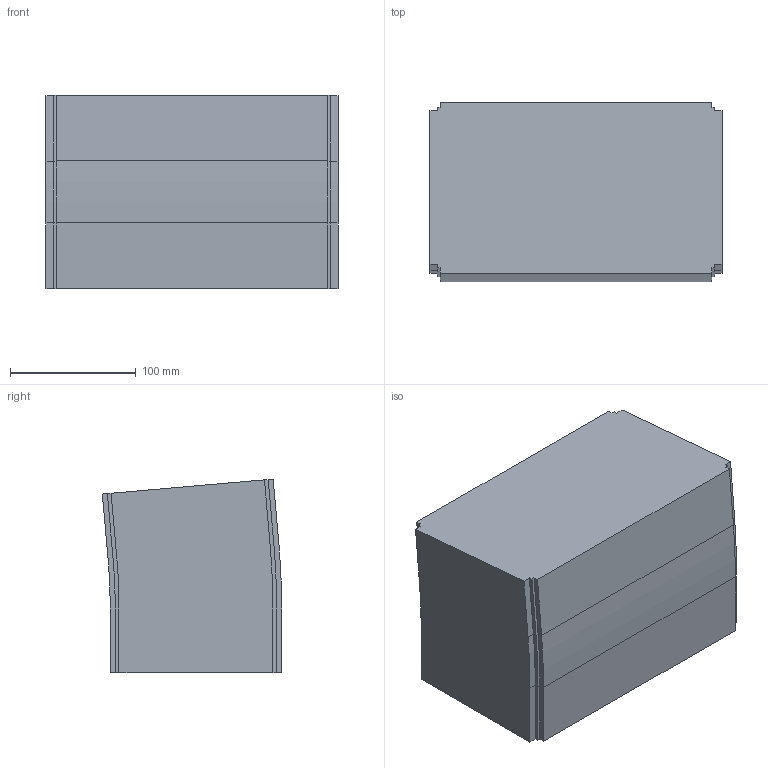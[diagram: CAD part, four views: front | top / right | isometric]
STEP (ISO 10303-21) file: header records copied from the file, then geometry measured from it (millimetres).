
FILE_DESCRIPTION (( 'STEP AP214' ), '1' );
FILE_NAME ('FS-MTC2-150-INOX verticaalbocht.230 5°.STEP', '2017-02-08T12:41:51', ( '' ), ( '' ), 'SwSTEP 2.0', 'SolidWorks 2016', '' );
FILE_SCHEMA (( 'AUTOMOTIVE_DESIGN' ));
Length unit declared in the file: millimetre
Products named in the file (1): FS-MTC2-150-INOX verticaalbocht.230 5°
Bounding box: 232.5 x 142.72 x 154.33 mm (x, y, z)
Volume: 4686621.3 mm3; surface area: 172754.2 mm2
Topology: 1 solids, 1 shells, 42 faces, 120 edges, 80 vertices
Faces by surface type: plane 32, cylinder 10
Entity records: 1398 total; most frequent: CARTESIAN_POINT 243, ORIENTED_EDGE 240, DIRECTION 226, EDGE_CURVE 120, VECTOR 100, LINE 100, VERTEX_POINT 80, AXIS2_PLACEMENT_3D 63
